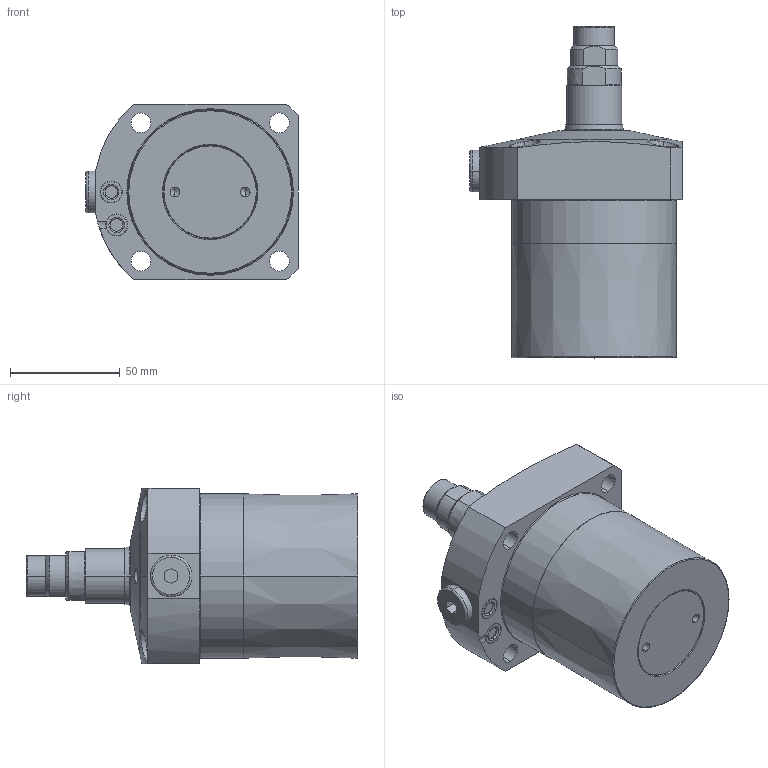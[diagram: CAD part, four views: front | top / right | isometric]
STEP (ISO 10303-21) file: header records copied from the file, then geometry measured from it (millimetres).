
FILE_DESCRIPTION(/* description */ (''),/* implementation_level */ '2;1');
FILE_NAME(/* name */ 'KFSS75-M.stp',/* time_stamp */ '2026-02-06T10:18:23+08:00',/* author */ (''),/* organization */ (''),/* preprocessor_version */ 'ST-DEVELOPER v16.7',/* originating_system */ 'SIEMENS PLM Software NX 12.0',/* authorisation */ '');
FILE_SCHEMA (('AUTOMOTIVE_DESIGN { 1 0 10303 214 3 1 1 1 }'));
Length unit declared in the file: millimetre
Products named in the file (10): XLC-M16SP_pin8854; XLC-M16SP_pad130; XLC-M16_o-ring39; XLC-M16SP_contactbolt6078; KFSS75-M-01; KFSS75-M-03; KFSS75-M-02; KFSS75-M-05-P7; KFSS75-M-04; LC0753-CxM-E_step
Assembly tree (10 placements, depth 3):
  LC0753-CxM-E_step
    KFSS75-M-05-P7  x2
    KFSS75-M-02
    KFSS75-M-03
    KFSS75-M-01
    KFSS75-M-04
      XLC-M16SP_contactbolt6078
      XLC-M16_o-ring39
      XLC-M16SP_pad130
      XLC-M16SP_pin8854
Bounding box: 96.5 x 151 x 80 mm (x, y, z)
Volume: 510570.3 mm3; surface area: 54286.2 mm2
Topology: 9 solids, 9 shells, 279 faces, 619 edges, 374 vertices
Faces by surface type: cylinder 90, torus 62, cone 62, plane 59, sphere 6
Entity records: 8301 total; most frequent: CARTESIAN_POINT 1885, DIRECTION 1420, ORIENTED_EDGE 1174, AXIS2_PLACEMENT_3D 615, EDGE_CURVE 587, VERTEX_POINT 360, CIRCLE 337, EDGE_LOOP 311
